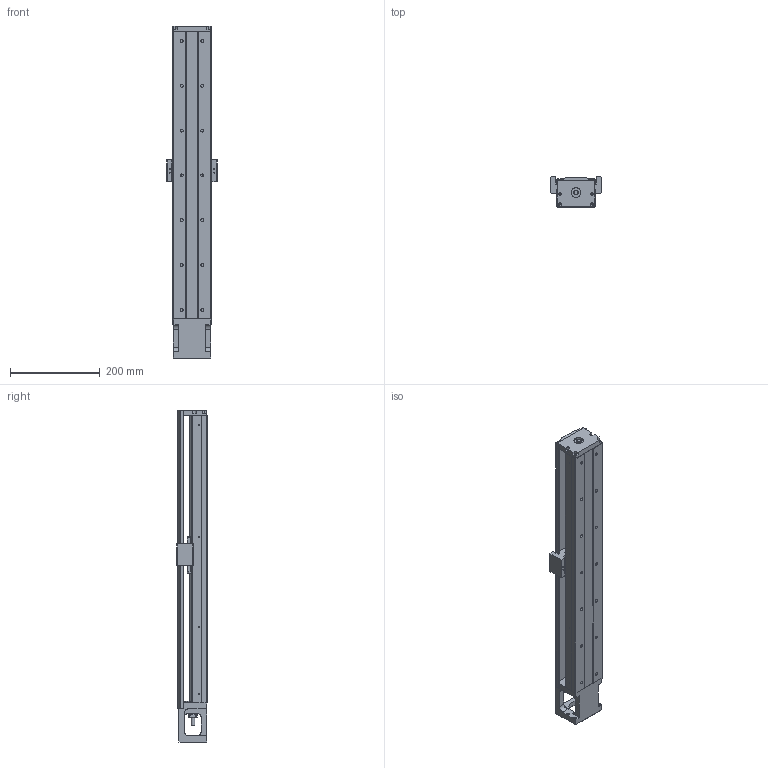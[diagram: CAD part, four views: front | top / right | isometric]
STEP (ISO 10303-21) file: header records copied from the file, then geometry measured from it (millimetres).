
FILE_DESCRIPTION(/* description */ (''),/* implementation_level */ '2;1');
FILE_NAME(/* name */ '46S-640C.stp',/* time_stamp */ '2016-12-20T14:08:01+08:00',/* author */ (''),/* organization */ (''),/* preprocessor_version */ 'ST-DEVELOPER v11',/* originating_system */ 'SIEMENS UGS NX 6.0',/* authorisation */ '');
FILE_SCHEMA (('AUTOMOTIVE_DESIGN { 1 0 10303 214 1 1 1 1 }'));
Length unit declared in the file: millimetre
Products named in the file (1): model4
Bounding box: 112 x 68 x 740 mm (x, y, z)
Volume: 1853546.2 mm3; surface area: 486847.7 mm2
Topology: 7 solids, 18 shells, 726 faces, 1906 edges, 1259 vertices
Faces by surface type: plane 342, cylinder 264, cone 59, bspline 53, torus 8
Full cylindrical faces by diameter (mm): 2 x2, 2.11 x2, 2.15 x8, 2.42 x6, 2.5 x4, 3 x4, 3.2 x4, 3.3 x12, 3.4 x8, 4 x6, 4.2 x4, 4.5 x8, 5 x8, 6 x8, 6.35 x2, 6.6 x14, 6.7 x2, 8 x1, 8.7 x4, 9.6 x1, 10 x3, 11 x14, 12 x1, 14.95 x2, 15 x1, 16 x2, 22 x3, 27.5 x1, 44 x1, 50 x1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
Entity records: 32807 total; most frequent: CARTESIAN_POINT 13560, ORIENTED_EDGE 3278, DIRECTION 3174, EDGE_CURVE 1639, AXIS2_PLACEMENT_3D 1181, VERTEX_POINT 1180, EDGE_LOOP 1029, LINE 812
